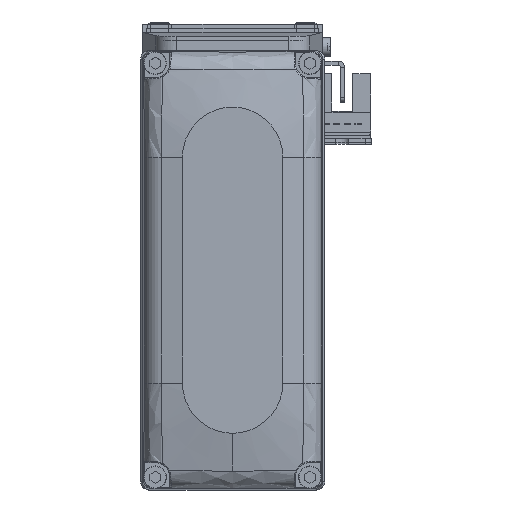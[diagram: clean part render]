
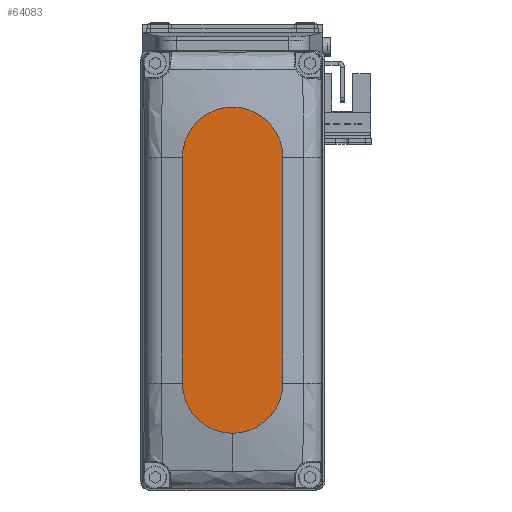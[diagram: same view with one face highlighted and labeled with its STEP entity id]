
A CAD part, top view. The second image highlights one B-rep face of the part: STEP entity #64083.
In plain terms, the highlighted planar face has unit normal (0, 0, 1).
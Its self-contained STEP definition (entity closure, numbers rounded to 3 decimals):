
#1957 = EDGE_CURVE ( 'NONE', #46102, #55823, #76989, .T. ) ;
#6257 = ORIENTED_EDGE ( 'NONE', *, *, #1957, .T. ) ;
#11227 = LINE ( 'NONE', #35208, #12245 ) ;
#11824 = EDGE_LOOP ( 'NONE', ( #29999, #6257, #18767, #45936, #36569 ) ) ;
#12245 = VECTOR ( 'NONE', #59237, 1000. ) ;
#14558 = EDGE_CURVE ( 'NONE', #16368, #49979, #18233, .T. ) ;
#15002 = DIRECTION ( 'NONE',  ( 0., 0., 1. ) ) ;
#16368 = VERTEX_POINT ( 'NONE', #23409 ) ;
#17078 = CARTESIAN_POINT ( 'NONE',  ( -27., 12., 25. ) ) ;
#18233 = CIRCLE ( 'NONE', #62201, 12. ) ;
#18245 = DIRECTION ( 'NONE',  ( 0., 0., 1. ) ) ;
#18767 = ORIENTED_EDGE ( 'NONE', *, *, #34943, .T. ) ;
#20576 = CARTESIAN_POINT ( 'NONE',  ( -27., -12., 25. ) ) ;
#22943 = CARTESIAN_POINT ( 'NONE',  ( -27., 0., 25. ) ) ;
#23409 = CARTESIAN_POINT ( 'NONE',  ( 27., -12., 25. ) ) ;
#23737 = CARTESIAN_POINT ( 'NONE',  ( 0., 0., 25. ) ) ;
#26697 = CARTESIAN_POINT ( 'NONE',  ( 39., 0., 25. ) ) ;
#28811 = EDGE_CURVE ( 'NONE', #49979, #58542, #54032, .T. ) ;
#29999 = ORIENTED_EDGE ( 'NONE', *, *, #70176, .T. ) ;
#30160 = AXIS2_PLACEMENT_3D ( 'NONE', #72093, #18245, #42231 ) ;
#34178 = CARTESIAN_POINT ( 'NONE',  ( 27., 12., 25. ) ) ;
#34943 = EDGE_CURVE ( 'NONE', #55823, #16368, #74423, .T. ) ;
#35208 = CARTESIAN_POINT ( 'NONE',  ( -27., 12., 25. ) ) ;
#35257 = AXIS2_PLACEMENT_3D ( 'NONE', #23737, #47715, #71672 ) ;
#36569 = ORIENTED_EDGE ( 'NONE', *, *, #28811, .T. ) ;
#38975 = DIRECTION ( 'NONE',  ( 1., 0., 0. ) ) ;
#42231 = DIRECTION ( 'NONE',  ( 1., 0., 0. ) ) ;
#43091 = AXIS2_PLACEMENT_3D ( 'NONE', #22943, #46938, #70905 ) ;
#44571 = DIRECTION ( 'NONE',  ( 1., 0., 0. ) ) ;
#45936 = ORIENTED_EDGE ( 'NONE', *, *, #14558, .T. ) ;
#46102 = VERTEX_POINT ( 'NONE', #17078 ) ;
#46938 = DIRECTION ( 'NONE',  ( 0., 0., 1. ) ) ;
#47715 = DIRECTION ( 'NONE',  ( 0., 0., 1. ) ) ;
#49979 = VERTEX_POINT ( 'NONE', #26697 ) ;
#53250 = VECTOR ( 'NONE', #44571, 1000. ) ;
#53634 = FACE_OUTER_BOUND ( 'NONE', #11824, .T. ) ;
#54032 = CIRCLE ( 'NONE', #30160, 12. ) ;
#54363 = CARTESIAN_POINT ( 'NONE',  ( -27., -12., 25. ) ) ;
#55823 = VERTEX_POINT ( 'NONE', #54363 ) ;
#58542 = VERTEX_POINT ( 'NONE', #34178 ) ;
#59237 = DIRECTION ( 'NONE',  ( -1., 0., 0. ) ) ;
#62201 = AXIS2_PLACEMENT_3D ( 'NONE', #68872, #15002, #38975 ) ;
#64083 = ADVANCED_FACE ( 'NONE', ( #53634 ), #77585, .T. ) ;
#68872 = CARTESIAN_POINT ( 'NONE',  ( 27., 0., 25. ) ) ;
#70176 = EDGE_CURVE ( 'NONE', #58542, #46102, #11227, .T. ) ;
#70905 = DIRECTION ( 'NONE',  ( 1., 0., 0. ) ) ;
#71672 = DIRECTION ( 'NONE',  ( 1., 0., 0. ) ) ;
#72093 = CARTESIAN_POINT ( 'NONE',  ( 27., 0., 25. ) ) ;
#74423 = LINE ( 'NONE', #20576, #53250 ) ;
#76989 = CIRCLE ( 'NONE', #43091, 12. ) ;
#77585 = PLANE ( 'NONE',  #35257 ) ;
